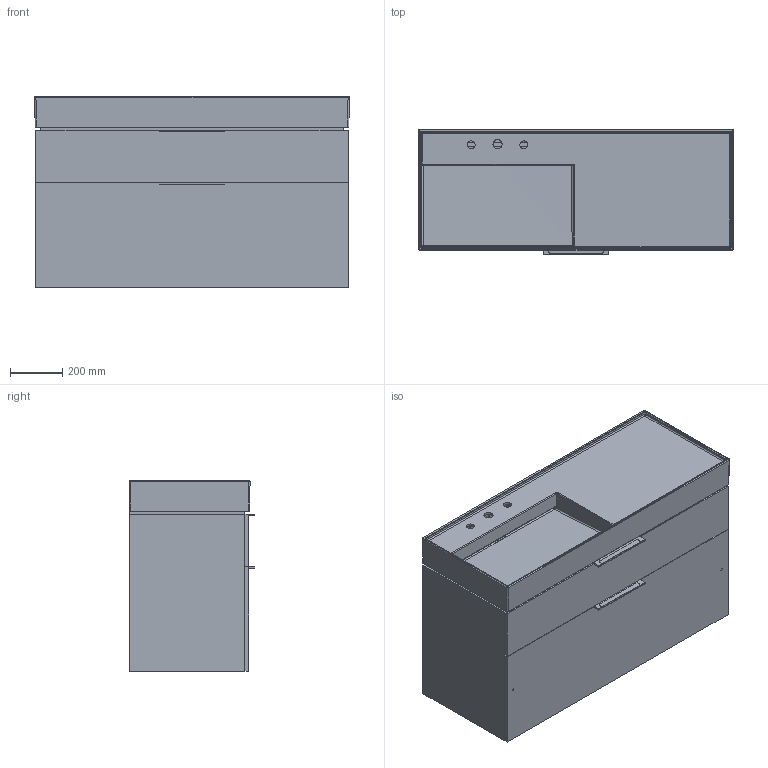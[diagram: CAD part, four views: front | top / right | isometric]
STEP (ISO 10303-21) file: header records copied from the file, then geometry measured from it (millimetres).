
FILE_DESCRIPTION(/* description */ (''),/* implementation_level */ '2;1');
FILE_NAME(/* name */ 'C:\Users\User33\Desktop\Kartell\3D01_407642.stp',/* time_stamp */ '2018-05-09T11:19:12+02:00',/* author */ ('User33'),/* organization */ (''),/* preprocessor_version */ 'ST-DEVELOPER v16.13',/* originating_system */ 'Autodesk Inventor 2018',/* authorisation */ '');
FILE_SCHEMA (('AUTOMOTIVE_DESIGN { 1 0 10303 214 3 1 1 }'));
Products named in the file (31): Assieme2; Parte28; Parte30; Parte32; Parte36; Parte38; Parte40; Parte42; Parte44; Parte46; Parte48; Parte50; Parte52; Parte58; Parte60; Parte62; Parte64; Parte66; Parte68; Parte70; Parte72; Parte76; Parte78; Parte80; Parte82; Parte86; Parte88; Parte90; Parte92; Parte100; Parte102
Assembly tree (30 placements, depth 2):
  Assieme2
    Parte28
    Parte30
    Parte32
    Parte36
    Parte38
    Parte40
    Parte42
    Parte44
    Parte46
    Parte48
    Parte50
    Parte52
    Parte58
    Parte60
    Parte62
    Parte64
    Parte66
    Parte68
    Parte70
    Parte72
    Parte76
    Parte78
    Parte80
    Parte82
    Parte86
    Parte88
    Parte90
    Parte92
    Parte100
    Parte102
Bounding box: 1199.89 x 477.01 x 728 mm (x, y, z)
Volume: 54863605.5 mm3; surface area: 9655681.9 mm2
Topology: 29 solids, 723 shells, 1740 faces, 6116 edges, 5162 vertices
Faces by surface type: plane 878, cylinder 446, bspline 373, sphere 17, cone 15, torus 11
Full cylindrical faces by diameter (mm): 2.5 x2, 4 x16, 4.1 x4, 5.1 x4, 6 x12, 7.2 x2, 10 x2, 12 x2, 12.5 x2
Entity records: 133437 total; most frequent: CARTESIAN_POINT 80922, DIRECTION 9339, ORIENTED_EDGE 8818, EDGE_CURVE 6054, VERTEX_POINT 5160, LINE 3115, VECTOR 3115, AXIS2_PLACEMENT_3D 3112
